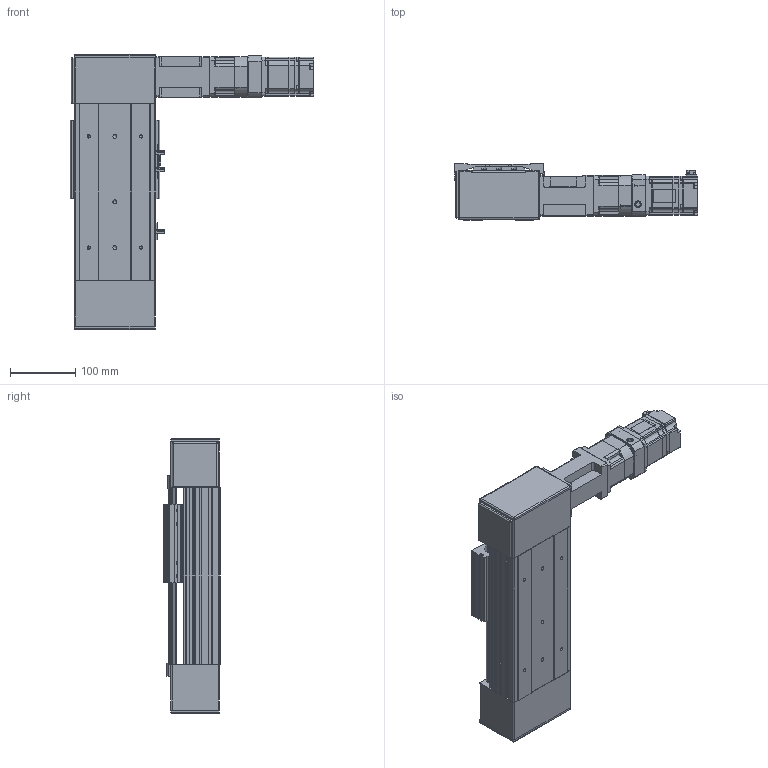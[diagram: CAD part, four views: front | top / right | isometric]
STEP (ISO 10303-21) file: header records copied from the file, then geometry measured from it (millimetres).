
FILE_DESCRIPTION (( 'STEP AP203' ), '1' );
FILE_NAME ('POB120SRN-0000-ST100-20NR00-N-I3R.STEP', '2015-10-06T23:29:47', ( '' ), ( '' ), 'SwSTEP 2.0', 'SolidWorks 2012', '' );
FILE_SCHEMA (( 'CONFIG_CONTROL_DESIGN' ));
Length unit declared in the file: millimetre
Products named in the file (11): POB120SRN-0000-ST100-20NR00-N-I3R; sgmjv_02a_a21; jc32c; EE_SX672; PGX62-H-1_3; PCB120-Motor Bracket; POB120-Sensor Dog; PCB120-Drive Pulley Block S; POB120-Carrier; PCB120-Idler Pulley Block; POB120-100ST BASE
Assembly tree (12 placements, depth 2):
  POB120SRN-0000-ST100-20NR00-N-I3R
    POB120-100ST BASE
    POB120-Carrier
    PCB120-Drive Pulley Block S
    PCB120-Idler Pulley Block
    EE_SX672  x3
    POB120-Sensor Dog
    PCB120-Motor Bracket
    PGX62-H-1_3
    jc32c
    sgmjv_02a_a21
Bounding box: 372.6 x 86 x 420 mm (x, y, z)
Volume: 4073424.6 mm3; surface area: 607763.5 mm2
Topology: 36 solids, 37 shells, 2014 faces, 5270 edges, 3379 vertices
Faces by surface type: plane 1108, cylinder 686, cone 168, bspline 40, sphere 12
Entity records: 61306 total; most frequent: CARTESIAN_POINT 13437, DIRECTION 9860, ORIENTED_EDGE 9640, EDGE_CURVE 4822, AXIS2_PLACEMENT_3D 3388, VERTEX_POINT 3131, LINE 3084, VECTOR 3084
